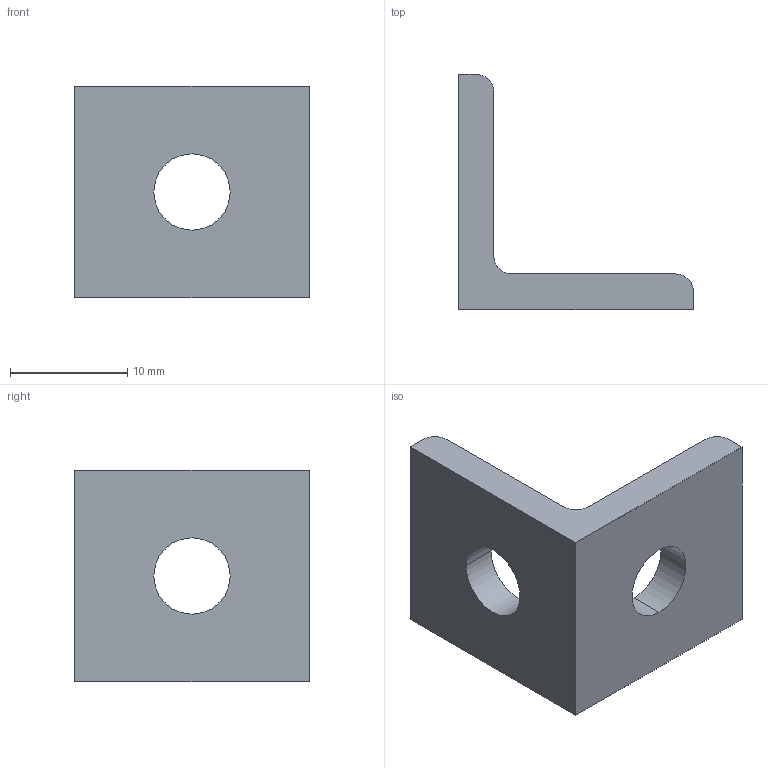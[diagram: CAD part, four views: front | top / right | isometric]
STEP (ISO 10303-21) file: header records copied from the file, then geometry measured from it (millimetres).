
FILE_DESCRIPTION (( 'STEP AP214' ), '1' );
FILE_NAME ('FBAB 20.step', '2017-04-05T08:00:38', ( '' ), ( '' ), 'SwSTEP 2.0', 'SolidWorks 2015', '' );
FILE_SCHEMA (( 'AUTOMOTIVE_DESIGN' ));
Length unit declared in the file: millimetre
Products named in the file (1): FBAB 20
Bounding box: 20 x 20 x 18 mm (x, y, z)
Volume: 1790.2 mm3; surface area: 1616.1 mm2
Topology: 1 solids, 1 shells, 15 faces, 39 edges, 26 vertices
Faces by surface type: plane 8, cylinder 7
Entity records: 509 total; most frequent: DIRECTION 85, CARTESIAN_POINT 81, ORIENTED_EDGE 78, EDGE_CURVE 39, AXIS2_PLACEMENT_3D 30, VERTEX_POINT 26, VECTOR 25, LINE 25
